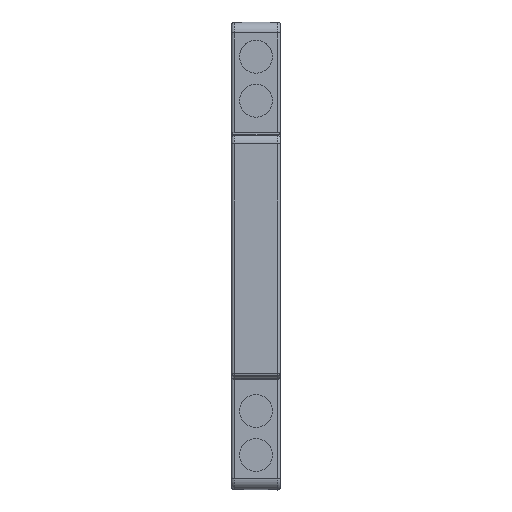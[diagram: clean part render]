
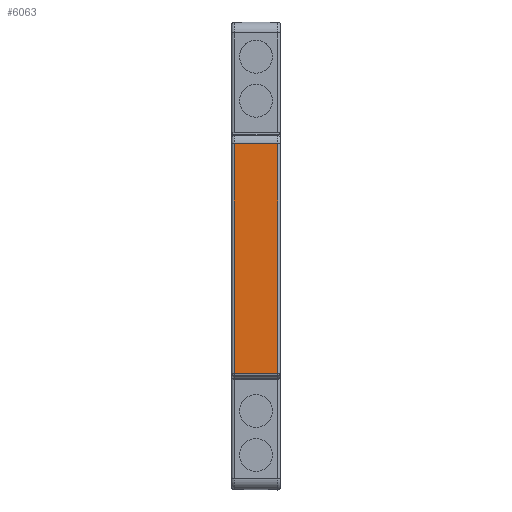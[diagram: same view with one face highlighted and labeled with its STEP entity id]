
A CAD part, top view. The second image highlights one B-rep face of the part: STEP entity #6063.
In plain terms, the highlighted planar face has unit normal (0, 0, 1).
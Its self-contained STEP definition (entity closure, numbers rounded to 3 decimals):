
#336 = CARTESIAN_POINT ( 'NONE',  ( -4.3, 21.056, 59.9 ) ) ;
#355 = VECTOR ( 'NONE', #2387, 1000. ) ;
#518 = VECTOR ( 'NONE', #6982, 1000. ) ;
#552 = DIRECTION ( 'NONE',  ( 0., -1., 0. ) ) ;
#930 = AXIS2_PLACEMENT_3D ( 'NONE', #3602, #4869, #6081 ) ;
#1091 = VERTEX_POINT ( 'NONE', #3220 ) ;
#1657 = CARTESIAN_POINT ( 'NONE',  ( 8.4, 62.827, 59.9 ) ) ;
#2055 = CARTESIAN_POINT ( 'NONE',  ( -4.3, 62.827, 59.9 ) ) ;
#2387 = DIRECTION ( 'NONE',  ( 0., 1., 0. ) ) ;
#2477 = VECTOR ( 'NONE', #5387, 1000. ) ;
#3063 = CARTESIAN_POINT ( 'NONE',  ( 8.4, 21.056, 59.9 ) ) ;
#3220 = CARTESIAN_POINT ( 'NONE',  ( 0.5, 21.056, 59.9 ) ) ;
#3602 = CARTESIAN_POINT ( 'NONE',  ( -4.3, 64.95, 59.9 ) ) ;
#3646 = EDGE_CURVE ( 'NONE', #6773, #6705, #7919, .T. ) ;
#3664 = LINE ( 'NONE', #6179, #6363 ) ;
#3742 = ORIENTED_EDGE ( 'NONE', *, *, #3646, .T. ) ;
#4130 = CARTESIAN_POINT ( 'NONE',  ( 0.5, 62.827, 59.9 ) ) ;
#4869 = DIRECTION ( 'NONE',  ( 0., 0., 1. ) ) ;
#5340 = EDGE_CURVE ( 'NONE', #6705, #7738, #6942, .T. ) ;
#5387 = DIRECTION ( 'NONE',  ( 1., 0., 0. ) ) ;
#5717 = ORIENTED_EDGE ( 'NONE', *, *, #7779, .T. ) ;
#5885 = LINE ( 'NONE', #336, #2477 ) ;
#6063 = ADVANCED_FACE ( 'NONE', ( #7416 ), #7931, .T. ) ;
#6081 = DIRECTION ( 'NONE',  ( 0., 1., 0. ) ) ;
#6179 = CARTESIAN_POINT ( 'NONE',  ( 0.5, 22.067, 59.9 ) ) ;
#6363 = VECTOR ( 'NONE', #552, 1000. ) ;
#6520 = EDGE_CURVE ( 'NONE', #7738, #1091, #3664, .T. ) ;
#6705 = VERTEX_POINT ( 'NONE', #7025 ) ;
#6773 = VERTEX_POINT ( 'NONE', #3063 ) ;
#6942 = LINE ( 'NONE', #2055, #518 ) ;
#6982 = DIRECTION ( 'NONE',  ( -1., 0., 0. ) ) ;
#7025 = CARTESIAN_POINT ( 'NONE',  ( 8.4, 62.827, 59.9 ) ) ;
#7035 = EDGE_LOOP ( 'NONE', ( #7596, #7918, #5717, #3742 ) ) ;
#7416 = FACE_OUTER_BOUND ( 'NONE', #7035, .T. ) ;
#7596 = ORIENTED_EDGE ( 'NONE', *, *, #5340, .T. ) ;
#7738 = VERTEX_POINT ( 'NONE', #4130 ) ;
#7779 = EDGE_CURVE ( 'NONE', #1091, #6773, #5885, .T. ) ;
#7918 = ORIENTED_EDGE ( 'NONE', *, *, #6520, .T. ) ;
#7919 = LINE ( 'NONE', #1657, #355 ) ;
#7931 = PLANE ( 'NONE',  #930 ) ;
